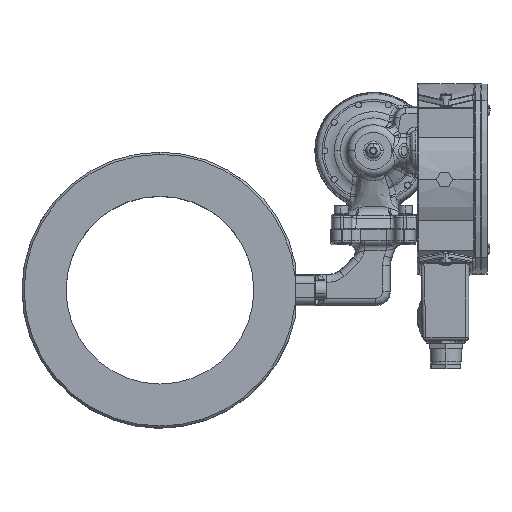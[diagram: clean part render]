
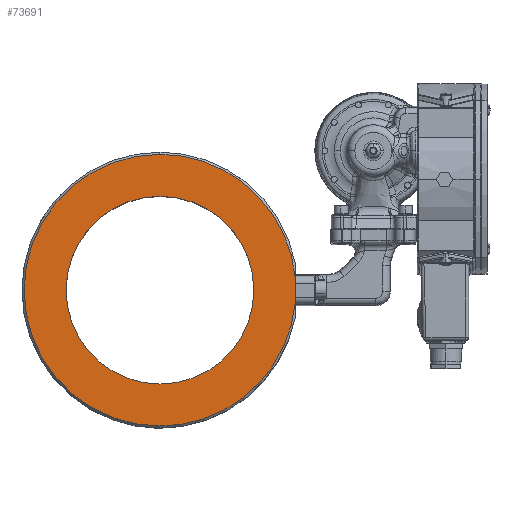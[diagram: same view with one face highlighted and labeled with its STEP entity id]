
A CAD part, top view. The second image highlights one B-rep face of the part: STEP entity #73691.
In plain terms, the highlighted planar face has unit normal (0, 0, 1).
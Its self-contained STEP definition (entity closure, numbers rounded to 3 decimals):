
#450 = FACE_BOUND ( 'NONE', #42371, .T. ) ;
#2373 = PLANE ( 'NONE',  #20452 ) ;
#6974 = EDGE_CURVE ( 'NONE', #20419, #84134, #40583, .T. ) ;
#8743 = CARTESIAN_POINT ( 'NONE',  ( -150.19, -67.693, 57.468 ) ) ;
#8931 = CIRCLE ( 'NONE', #57451, 95.5 ) ;
#9547 = DIRECTION ( 'NONE',  ( 0., -1., 0. ) ) ;
#10878 = CIRCLE ( 'NONE', #59568, 66. ) ;
#11234 = EDGE_LOOP ( 'NONE', ( #17256, #97473, #12750, #49841 ) ) ;
#12750 = ORIENTED_EDGE ( 'NONE', *, *, #6974, .F. ) ;
#14334 = DIRECTION ( 'NONE',  ( 0., 0., -1. ) ) ;
#14396 = EDGE_CURVE ( 'NONE', #57952, #19392, #41314, .T. ) ;
#16709 = DIRECTION ( 'NONE',  ( 0., 1., 0. ) ) ;
#17256 = ORIENTED_EDGE ( 'NONE', *, *, #14396, .F. ) ;
#18976 = EDGE_CURVE ( 'NONE', #50640, #89380, #82779, .T. ) ;
#19392 = VERTEX_POINT ( 'NONE', #51347 ) ;
#20220 = ORIENTED_EDGE ( 'NONE', *, *, #48718, .T. ) ;
#20419 = VERTEX_POINT ( 'NONE', #47092 ) ;
#20452 = AXIS2_PLACEMENT_3D ( 'NONE', #88771, #81080, #57721 ) ;
#23518 = DIRECTION ( 'NONE',  ( 0., 0., -1. ) ) ;
#25956 = AXIS2_PLACEMENT_3D ( 'NONE', #61687, #14334, #69647 ) ;
#26141 = CARTESIAN_POINT ( 'NONE',  ( -55.19, -67.693, 57.468 ) ) ;
#32264 = EDGE_CURVE ( 'NONE', #19392, #20419, #8931, .T. ) ;
#40583 = CIRCLE ( 'NONE', #54013, 95.5 ) ;
#41314 = CIRCLE ( 'NONE', #25956, 95.5 ) ;
#42371 = EDGE_LOOP ( 'NONE', ( #64574, #20220 ) ) ;
#42589 = FACE_OUTER_BOUND ( 'NONE', #11234, .T. ) ;
#43573 = CARTESIAN_POINT ( 'NONE',  ( -150.19, -67.693, 57.468 ) ) ;
#47092 = CARTESIAN_POINT ( 'NONE',  ( -150.19, 27.807, 57.468 ) ) ;
#48718 = EDGE_CURVE ( 'NONE', #89380, #50640, #10878, .T. ) ;
#49668 = CARTESIAN_POINT ( 'NONE',  ( -55.19, -77.453, 57.468 ) ) ;
#49841 = ORIENTED_EDGE ( 'NONE', *, *, #32264, .F. ) ;
#50533 = CARTESIAN_POINT ( 'NONE',  ( -84.19, -67.693, 57.468 ) ) ;
#50640 = VERTEX_POINT ( 'NONE', #80642 ) ;
#51347 = CARTESIAN_POINT ( 'NONE',  ( -150.19, -163.193, 57.468 ) ) ;
#51407 = DIRECTION ( 'NONE',  ( -1., 0., 0. ) ) ;
#54013 = AXIS2_PLACEMENT_3D ( 'NONE', #78578, #78562, #78479 ) ;
#57451 = AXIS2_PLACEMENT_3D ( 'NONE', #8743, #64050, #16709 ) ;
#57721 = DIRECTION ( 'NONE',  ( 0., -1., 0. ) ) ;
#57952 = VERTEX_POINT ( 'NONE', #49668 ) ;
#59568 = AXIS2_PLACEMENT_3D ( 'NONE', #70857, #23518, #78726 ) ;
#61687 = CARTESIAN_POINT ( 'NONE',  ( -150.19, -67.693, 57.468 ) ) ;
#62555 = AXIS2_PLACEMENT_3D ( 'NONE', #43573, #98144, #51407 ) ;
#64050 = DIRECTION ( 'NONE',  ( 0., 0., -1. ) ) ;
#64574 = ORIENTED_EDGE ( 'NONE', *, *, #18976, .T. ) ;
#67519 = VECTOR ( 'NONE', #9547, 1000. ) ;
#69647 = DIRECTION ( 'NONE',  ( 0., 1., 0. ) ) ;
#70857 = CARTESIAN_POINT ( 'NONE',  ( -150.19, -67.693, 57.468 ) ) ;
#73691 = ADVANCED_FACE ( 'NONE', ( #450, #42589 ), #2373, .T. ) ;
#78479 = DIRECTION ( 'NONE',  ( 0., 1., 0. ) ) ;
#78562 = DIRECTION ( 'NONE',  ( 0., 0., -1. ) ) ;
#78578 = CARTESIAN_POINT ( 'NONE',  ( -150.19, -67.693, 57.468 ) ) ;
#78726 = DIRECTION ( 'NONE',  ( -1., 0., 0. ) ) ;
#80642 = CARTESIAN_POINT ( 'NONE',  ( -216.19, -67.693, 57.468 ) ) ;
#80974 = LINE ( 'NONE', #26141, #67519 ) ;
#81080 = DIRECTION ( 'NONE',  ( 0., 0., 1. ) ) ;
#82779 = CIRCLE ( 'NONE', #62555, 66. ) ;
#84134 = VERTEX_POINT ( 'NONE', #84237 ) ;
#84237 = CARTESIAN_POINT ( 'NONE',  ( -55.19, -57.934, 57.468 ) ) ;
#88771 = CARTESIAN_POINT ( 'NONE',  ( -141.506, -67.693, 57.468 ) ) ;
#89380 = VERTEX_POINT ( 'NONE', #50533 ) ;
#91298 = EDGE_CURVE ( 'NONE', #84134, #57952, #80974, .T. ) ;
#97473 = ORIENTED_EDGE ( 'NONE', *, *, #91298, .F. ) ;
#98144 = DIRECTION ( 'NONE',  ( 0., 0., -1. ) ) ;
